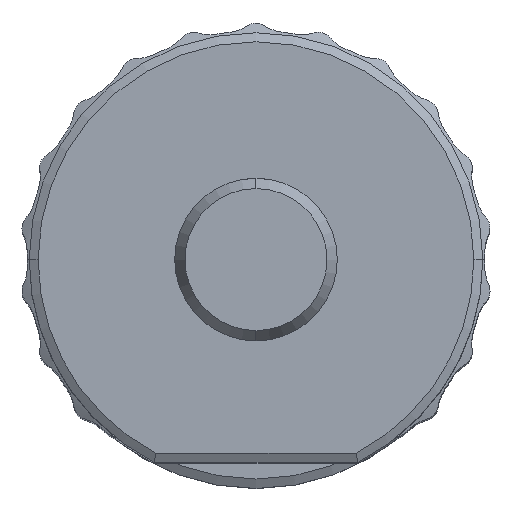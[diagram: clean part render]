
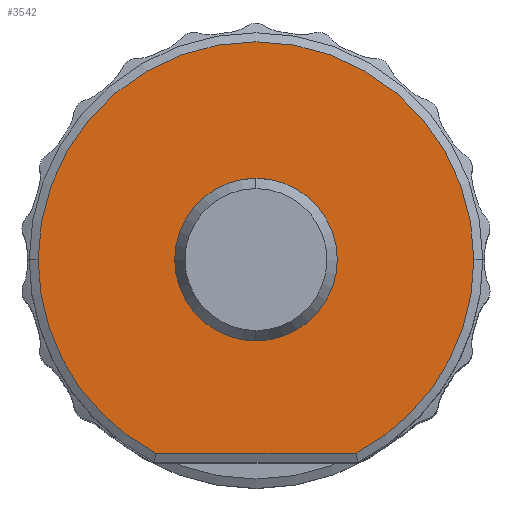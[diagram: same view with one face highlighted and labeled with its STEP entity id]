
A CAD part, top view. The second image highlights one B-rep face of the part: STEP entity #3542.
In plain terms, the highlighted planar face has unit normal (0, 0, 1).
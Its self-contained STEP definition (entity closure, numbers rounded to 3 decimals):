
#543 = ORIENTED_EDGE ( 'NONE', *, *, #9142, .T. ) ;
#842 = CIRCLE ( 'NONE', #7932, 7.97 ) ;
#849 = DIRECTION ( 'NONE',  ( 0., 0., 1. ) ) ;
#909 = LINE ( 'NONE', #11000, #5867 ) ;
#1073 = AXIS2_PLACEMENT_3D ( 'NONE', #3565, #10454, #4561 ) ;
#1164 = CARTESIAN_POINT ( 'NONE',  ( 0., 0., 0. ) ) ;
#1823 = ORIENTED_EDGE ( 'NONE', *, *, #4929, .T. ) ;
#2168 = DIRECTION ( 'NONE',  ( 1., 0., 0. ) ) ;
#2379 = DIRECTION ( 'NONE',  ( 0., 0., 1. ) ) ;
#2388 = AXIS2_PLACEMENT_3D ( 'NONE', #10504, #4603, #11558 ) ;
#2478 = CARTESIAN_POINT ( 'NONE',  ( 0., 0., 0. ) ) ;
#2595 = CARTESIAN_POINT ( 'NONE',  ( 3.66, -7.08, 0. ) ) ;
#2993 = CIRCLE ( 'NONE', #2995, 2.975 ) ;
#2995 = AXIS2_PLACEMENT_3D ( 'NONE', #6779, #849, #7772 ) ;
#3373 = CARTESIAN_POINT ( 'NONE',  ( 2.975, 0., 0. ) ) ;
#3475 = DIRECTION ( 'NONE',  ( 0., 0., 1. ) ) ;
#3542 = ADVANCED_FACE ( 'NONE', ( #10465, #5534 ), #6384, .T. ) ;
#3565 = CARTESIAN_POINT ( 'NONE',  ( 0., 0., 0. ) ) ;
#3785 = EDGE_LOOP ( 'NONE', ( #4942, #8173 ) ) ;
#4529 = EDGE_CURVE ( 'NONE', #8693, #5194, #8277, .T. ) ;
#4561 = DIRECTION ( 'NONE',  ( 1., 0., 0. ) ) ;
#4603 = DIRECTION ( 'NONE',  ( 0., 0., 1. ) ) ;
#4803 = VERTEX_POINT ( 'NONE', #11832 ) ;
#4896 = CIRCLE ( 'NONE', #2388, 2.975 ) ;
#4929 = EDGE_CURVE ( 'NONE', #9238, #8693, #842, .T. ) ;
#4942 = ORIENTED_EDGE ( 'NONE', *, *, #5112, .F. ) ;
#5069 = EDGE_CURVE ( 'NONE', #6699, #9238, #7483, .T. ) ;
#5112 = EDGE_CURVE ( 'NONE', #10757, #4803, #4896, .T. ) ;
#5194 = VERTEX_POINT ( 'NONE', #7691 ) ;
#5287 = CARTESIAN_POINT ( 'NONE',  ( 7.97, 0., 0. ) ) ;
#5534 = FACE_BOUND ( 'NONE', #3785, .T. ) ;
#5867 = VECTOR ( 'NONE', #9041, 1000. ) ;
#6374 = EDGE_CURVE ( 'NONE', #4803, #10757, #2993, .T. ) ;
#6384 = PLANE ( 'NONE',  #12339 ) ;
#6699 = VERTEX_POINT ( 'NONE', #2595 ) ;
#6779 = CARTESIAN_POINT ( 'NONE',  ( 0., 0., 0. ) ) ;
#7483 = CIRCLE ( 'NONE', #1073, 7.97 ) ;
#7691 = CARTESIAN_POINT ( 'NONE',  ( -3.66, -7.08, 0. ) ) ;
#7772 = DIRECTION ( 'NONE',  ( 1., 0., 0. ) ) ;
#7932 = AXIS2_PLACEMENT_3D ( 'NONE', #1164, #8089, #2168 ) ;
#7956 = CARTESIAN_POINT ( 'NONE',  ( -7.97, 0., 0. ) ) ;
#8089 = DIRECTION ( 'NONE',  ( 0., 0., 1. ) ) ;
#8173 = ORIENTED_EDGE ( 'NONE', *, *, #6374, .F. ) ;
#8277 = CIRCLE ( 'NONE', #9508, 7.97 ) ;
#8297 = CARTESIAN_POINT ( 'NONE',  ( 0., 0., 0. ) ) ;
#8693 = VERTEX_POINT ( 'NONE', #7956 ) ;
#9041 = DIRECTION ( 'NONE',  ( 1., 0., 0. ) ) ;
#9142 = EDGE_CURVE ( 'NONE', #5194, #6699, #909, .T. ) ;
#9238 = VERTEX_POINT ( 'NONE', #5287 ) ;
#9301 = DIRECTION ( 'NONE',  ( 1., 0., 0. ) ) ;
#9508 = AXIS2_PLACEMENT_3D ( 'NONE', #8297, #2379, #9301 ) ;
#9930 = EDGE_LOOP ( 'NONE', ( #543, #11119, #1823, #12610 ) ) ;
#10377 = DIRECTION ( 'NONE',  ( 1., 0., 0. ) ) ;
#10454 = DIRECTION ( 'NONE',  ( 0., 0., 1. ) ) ;
#10465 = FACE_OUTER_BOUND ( 'NONE', #9930, .T. ) ;
#10504 = CARTESIAN_POINT ( 'NONE',  ( 0., 0., 0. ) ) ;
#10757 = VERTEX_POINT ( 'NONE', #3373 ) ;
#11000 = CARTESIAN_POINT ( 'NONE',  ( 0., -7.08, 0. ) ) ;
#11119 = ORIENTED_EDGE ( 'NONE', *, *, #5069, .T. ) ;
#11558 = DIRECTION ( 'NONE',  ( 1., 0., 0. ) ) ;
#11832 = CARTESIAN_POINT ( 'NONE',  ( -2.975, 0., 0. ) ) ;
#12339 = AXIS2_PLACEMENT_3D ( 'NONE', #2478, #3475, #10377 ) ;
#12610 = ORIENTED_EDGE ( 'NONE', *, *, #4529, .T. ) ;
